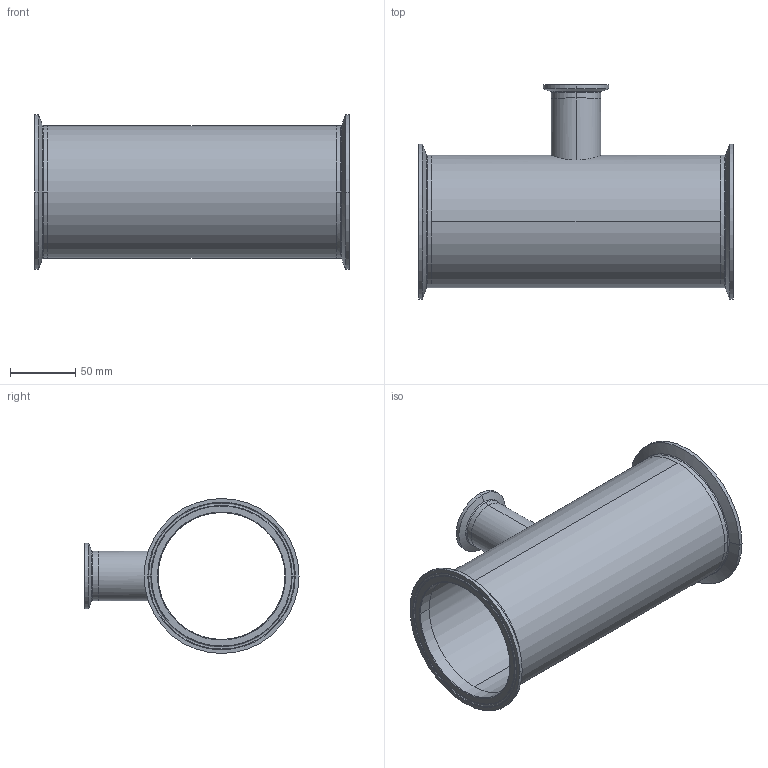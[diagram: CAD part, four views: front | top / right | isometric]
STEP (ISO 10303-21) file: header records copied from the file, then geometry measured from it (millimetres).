
FILE_DESCRIPTION (( 'STEP AP214' ), '1' );
FILE_NAME ('TEG7R6L4.0x1.5-...STEP', '2016-05-24T07:27:41', ( 'eran' ), ( '' ), 'SwSTEP 2.0', 'SolidWorks 2016', '' );
FILE_SCHEMA (( 'AUTOMOTIVE_DESIGN' ));
Length unit declared in the file: millimetre
Products named in the file (1): TEG7R6L4.0x1.5-..
Bounding box: 241.4 x 164.26 x 118.92 mm (x, y, z)
Volume: 196239.8 mm3; surface area: 178784.9 mm2
Topology: 4 solids, 4 shells, 86 faces, 214 edges, 140 vertices
Faces by surface type: bspline 30, cylinder 26, cone 18, plane 12
Entity records: 4816 total; most frequent: CARTESIAN_POINT 2703, DIRECTION 454, ORIENTED_EDGE 428, EDGE_CURVE 214, AXIS2_PLACEMENT_3D 205, CIRCLE 148, VERTEX_POINT 140, EDGE_LOOP 100
